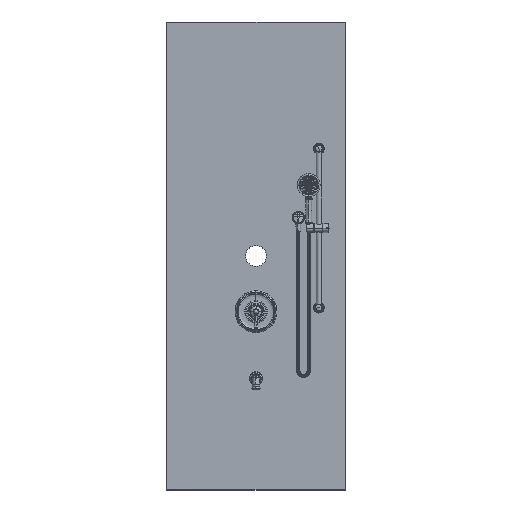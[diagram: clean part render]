
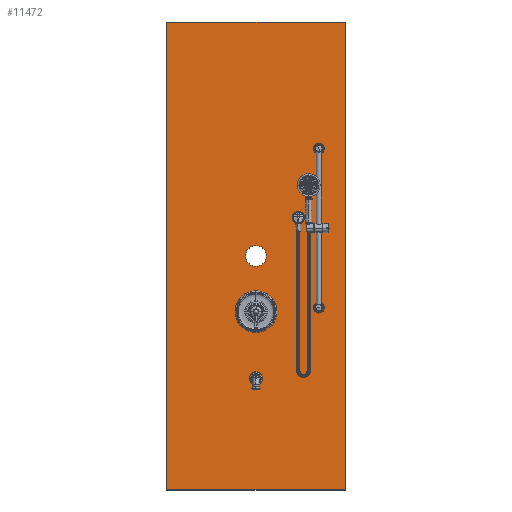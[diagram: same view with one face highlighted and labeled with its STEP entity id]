
A CAD part, top view. The second image highlights one B-rep face of the part: STEP entity #11472.
In plain terms, the highlighted planar face has unit normal (0, 0, 1).
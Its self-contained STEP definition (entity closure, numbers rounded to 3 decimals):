
#10308 = VERTEX_POINT ( 'NONE', #148577 ) ;
#10895 = FACE_BOUND ( 'NONE', #56329, .T. ) ;
#11472 = ADVANCED_FACE ( 'NONE', ( #10895, #45934 ), #35562, .T. ) ;
#11946 = ORIENTED_EDGE ( 'NONE', *, *, #84817, .T. ) ;
#13457 = VERTEX_POINT ( 'NONE', #93773 ) ;
#18182 = CARTESIAN_POINT ( 'NONE',  ( 0., 10., 0. ) ) ;
#18534 = ORIENTED_EDGE ( 'NONE', *, *, #29590, .F. ) ;
#18878 = DIRECTION ( 'NONE',  ( 0., 1., 0. ) ) ;
#23822 = VERTEX_POINT ( 'NONE', #39646 ) ;
#23897 = VECTOR ( 'NONE', #71754, 39.37 ) ;
#24809 = EDGE_LOOP ( 'NONE', ( #11946, #155615, #109572, #154054 ) ) ;
#26284 = CARTESIAN_POINT ( 'NONE',  ( 16., -32., 0. ) ) ;
#29590 = EDGE_CURVE ( 'NONE', #13457, #39075, #41327, .T. ) ;
#35320 = DIRECTION ( 'NONE',  ( 0., -1., 0. ) ) ;
#35562 = PLANE ( 'NONE',  #122272 ) ;
#39075 = VERTEX_POINT ( 'NONE', #107118 ) ;
#39646 = CARTESIAN_POINT ( 'NONE',  ( -16., 52., 0. ) ) ;
#41327 = CIRCLE ( 'NONE', #64161, 1.875 ) ;
#44120 = EDGE_CURVE ( 'NONE', #110985, #83369, #45816, .T. ) ;
#45816 = LINE ( 'NONE', #157251, #145127 ) ;
#45934 = FACE_OUTER_BOUND ( 'NONE', #24809, .T. ) ;
#47280 = LINE ( 'NONE', #144376, #60561 ) ;
#56329 = EDGE_LOOP ( 'NONE', ( #148605, #18534 ) ) ;
#59445 = DIRECTION ( 'NONE',  ( 1., 0., 0. ) ) ;
#60561 = VECTOR ( 'NONE', #35320, 39.37 ) ;
#64161 = AXIS2_PLACEMENT_3D ( 'NONE', #79349, #90536, #127930 ) ;
#70454 = VECTOR ( 'NONE', #18878, 39.37 ) ;
#71754 = DIRECTION ( 'NONE',  ( -1., 0., 0. ) ) ;
#71908 = CARTESIAN_POINT ( 'NONE',  ( 16., 52., 0. ) ) ;
#72156 = DIRECTION ( 'NONE',  ( 0., 0., 1. ) ) ;
#77575 = EDGE_CURVE ( 'NONE', #39075, #13457, #99928, .T. ) ;
#79349 = CARTESIAN_POINT ( 'NONE',  ( 0., 10., 0. ) ) ;
#79559 = EDGE_CURVE ( 'NONE', #10308, #23822, #121950, .T. ) ;
#83369 = VERTEX_POINT ( 'NONE', #26284 ) ;
#83733 = CARTESIAN_POINT ( 'NONE',  ( -16., 52., 0. ) ) ;
#84817 = EDGE_CURVE ( 'NONE', #23822, #110985, #47280, .T. ) ;
#90536 = DIRECTION ( 'NONE',  ( 0., 0., 1. ) ) ;
#93773 = CARTESIAN_POINT ( 'NONE',  ( -1.875, 10., 0. ) ) ;
#96615 = LINE ( 'NONE', #71908, #70454 ) ;
#99928 = CIRCLE ( 'NONE', #105025, 1.875 ) ;
#103371 = DIRECTION ( 'NONE',  ( 1., 0., 0. ) ) ;
#105025 = AXIS2_PLACEMENT_3D ( 'NONE', #18182, #151936, #103371 ) ;
#107118 = CARTESIAN_POINT ( 'NONE',  ( 1.875, 10., 0. ) ) ;
#108406 = EDGE_CURVE ( 'NONE', #83369, #10308, #96615, .T. ) ;
#109572 = ORIENTED_EDGE ( 'NONE', *, *, #108406, .T. ) ;
#110985 = VERTEX_POINT ( 'NONE', #137180 ) ;
#121950 = LINE ( 'NONE', #83733, #23897 ) ;
#122272 = AXIS2_PLACEMENT_3D ( 'NONE', #143841, #72156, #59445 ) ;
#127930 = DIRECTION ( 'NONE',  ( 1., 0., 0. ) ) ;
#133350 = DIRECTION ( 'NONE',  ( 1., 0., 0. ) ) ;
#137180 = CARTESIAN_POINT ( 'NONE',  ( -16., -32., 0. ) ) ;
#143841 = CARTESIAN_POINT ( 'NONE',  ( -16., -32., 0. ) ) ;
#144376 = CARTESIAN_POINT ( 'NONE',  ( -16., 52., 0. ) ) ;
#145127 = VECTOR ( 'NONE', #133350, 39.37 ) ;
#148577 = CARTESIAN_POINT ( 'NONE',  ( 16., 52., 0. ) ) ;
#148605 = ORIENTED_EDGE ( 'NONE', *, *, #77575, .F. ) ;
#151936 = DIRECTION ( 'NONE',  ( 0., 0., 1. ) ) ;
#154054 = ORIENTED_EDGE ( 'NONE', *, *, #79559, .T. ) ;
#155615 = ORIENTED_EDGE ( 'NONE', *, *, #44120, .T. ) ;
#157251 = CARTESIAN_POINT ( 'NONE',  ( -16., -32., 0. ) ) ;
